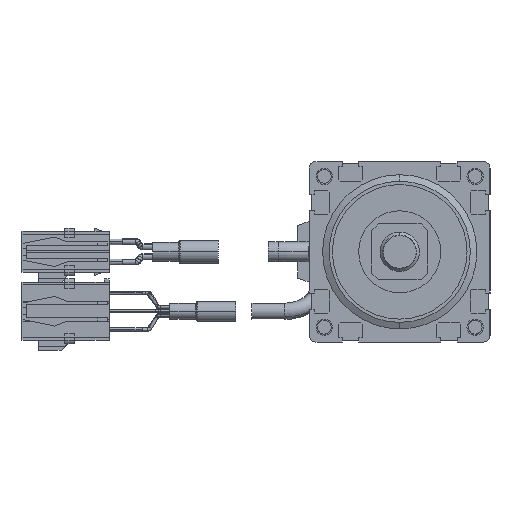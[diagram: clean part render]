
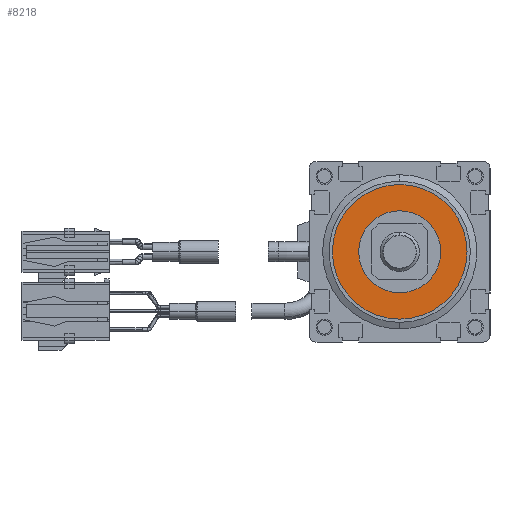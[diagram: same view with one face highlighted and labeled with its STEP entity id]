
A CAD part, left-side view. The second image highlights one B-rep face of the part: STEP entity #8218.
In plain terms, the highlighted planar face has unit normal (-1, 0, 0).
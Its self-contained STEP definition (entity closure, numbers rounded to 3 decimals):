
#1965=CARTESIAN_POINT('',(-341.,0.,0.));
#1966=DIRECTION('',(1.,0.,0.));
#1967=DIRECTION('',(0.,1.,0.));
#1968=AXIS2_PLACEMENT_3D('',#1965,#1966,#1967);
#1970=CARTESIAN_POINT('',(-341.,0.,0.));
#1971=DIRECTION('',(1.,0.,0.));
#1972=DIRECTION('',(0.,-1.,0.));
#1973=AXIS2_PLACEMENT_3D('',#1970,#1971,#1972);
#1975=CARTESIAN_POINT('',(-341.,0.,0.));
#1976=DIRECTION('',(-1.,0.,0.));
#1977=DIRECTION('',(0.,0.,1.));
#1978=AXIS2_PLACEMENT_3D('',#1975,#1976,#1977);
#1980=CARTESIAN_POINT('',(-341.,0.,0.));
#1981=DIRECTION('',(-1.,0.,0.));
#1982=DIRECTION('',(0.,0.,-1.));
#1983=AXIS2_PLACEMENT_3D('',#1980,#1981,#1982);
#4225=CARTESIAN_POINT('',(-341.,20.5,0.));
#4226=VERTEX_POINT('',#4225);
#4227=CARTESIAN_POINT('',(-341.,-20.5,0.));
#4228=VERTEX_POINT('',#4227);
#5359=CARTESIAN_POINT('',(-341.,0.,12.5));
#5360=CARTESIAN_POINT('',(-341.,0.,-12.5));
#5361=VERTEX_POINT('',#5359);
#5362=VERTEX_POINT('',#5360);
#8203=CARTESIAN_POINT('',(-341.,0.,0.));
#8204=DIRECTION('',(1.,0.,0.));
#8205=DIRECTION('',(0.,1.,0.));
#8206=AXIS2_PLACEMENT_3D('',#8203,#8204,#8205);
#8207=PLANE('',#8206);
#8208=ORIENTED_EDGE('',*,*,#8183,.T.);
#8209=ORIENTED_EDGE('',*,*,#8197,.T.);
#8210=EDGE_LOOP('',(#8208,#8209));
#8211=FACE_OUTER_BOUND('',#8210,.F.);
#8213=ORIENTED_EDGE('',*,*,#8212,.T.);
#8215=ORIENTED_EDGE('',*,*,#8214,.T.);
#8216=EDGE_LOOP('',(#8213,#8215));
#8217=FACE_BOUND('',#8216,.F.);
#8218=ADVANCED_FACE('',(#8211,#8217),#8207,.F.);
#1969=CIRCLE('',#1968,20.5);
#1974=CIRCLE('',#1973,20.5);
#1979=CIRCLE('',#1978,12.5);
#1984=CIRCLE('',#1983,12.5);
#8183=EDGE_CURVE('',#4226,#4228,#1969,.T.);
#8197=EDGE_CURVE('',#4228,#4226,#1974,.T.);
#8212=EDGE_CURVE('',#5361,#5362,#1979,.T.);
#8214=EDGE_CURVE('',#5362,#5361,#1984,.T.);
